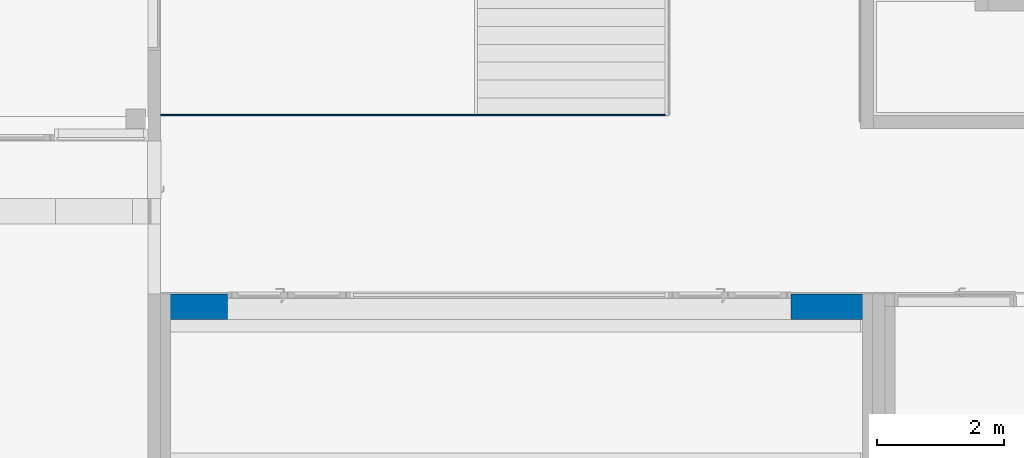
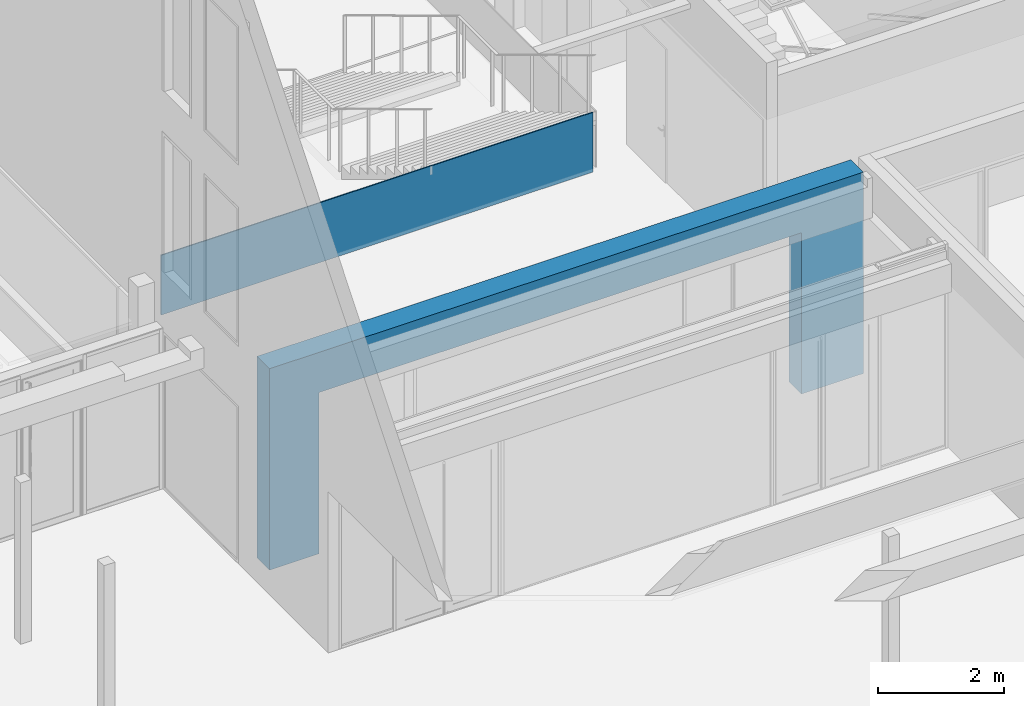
# One storey, part 145 of 240: 2 walls, 3 openings.
"""IFC2X3 building model written with IfcOpenShell, lengths in centimetres."""

from ifc_helpers import new_model, entity, si_unit, converted_unit, derived_unit, direction, frame, frame_2d, origin, place, context, subcontext, project, spatial, polyline, rectangle, extrude, clip, bounded_halfspace, material, layer, layer_set, layer_usage, type_object, element, save


model = new_model("IFC2X3")

# Units and contexts
model_context = context("Model", 3, precision=0.001, world=origin(), true_north=direction((6.12303176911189e-17, 1.0)))
body_context = subcontext(model_context, "Body", "Model", "MODEL_VIEW")
ifc_project = project(units=[si_unit("LENGTHUNIT", "METRE", prefix="CENTI"), si_unit("AREAUNIT", "SQUARE_METRE"), si_unit("VOLUMEUNIT", "CUBIC_METRE"), converted_unit("PLANEANGLEUNIT", "DEGREE", entity("IfcRatioMeasure", 0.0174532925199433), si_unit("PLANEANGLEUNIT", "RADIAN"), dimensions=[0, 0, 0, 0, 0, 0, 0]), si_unit("MASSUNIT", "GRAM", prefix="KILO"), derived_unit("MASSDENSITYUNIT", [(si_unit("MASSUNIT", "GRAM", prefix="KILO"), 1), (si_unit("LENGTHUNIT", "METRE"), -3)]), si_unit("TIMEUNIT", "SECOND"), si_unit("FREQUENCYUNIT", "HERTZ"), si_unit("THERMODYNAMICTEMPERATUREUNIT", "DEGREE_CELSIUS"), derived_unit("THERMALTRANSMITTANCEUNIT", [(si_unit("MASSUNIT", "GRAM", prefix="KILO"), 1), (si_unit("THERMODYNAMICTEMPERATUREUNIT", "KELVIN"), -1), (si_unit("TIMEUNIT", "SECOND"), -3)]), derived_unit("VOLUMETRICFLOWRATEUNIT", [(si_unit("LENGTHUNIT", "METRE"), 3), (si_unit("TIMEUNIT", "SECOND"), -1)]), si_unit("ELECTRICCURRENTUNIT", "AMPERE"), si_unit("ELECTRICVOLTAGEUNIT", "VOLT"), si_unit("POWERUNIT", "WATT"), si_unit("FORCEUNIT", "NEWTON", prefix="KILO"), si_unit("ILLUMINANCEUNIT", "LUX"), si_unit("LUMINOUSFLUXUNIT", "LUMEN"), si_unit("LUMINOUSINTENSITYUNIT", "CANDELA"), derived_unit("USERDEFINED", [(si_unit("MASSUNIT", "GRAM", prefix="KILO"), -1), (si_unit("LENGTHUNIT", "METRE"), -2), (si_unit("TIMEUNIT", "SECOND"), 3), (si_unit("LUMINOUSFLUXUNIT", "LUMEN"), 1)]), derived_unit("LINEARVELOCITYUNIT", [(si_unit("LENGTHUNIT", "METRE"), 1), (si_unit("TIMEUNIT", "SECOND"), -1)]), si_unit("PRESSUREUNIT", "PASCAL"), derived_unit("USERDEFINED", [(si_unit("LENGTHUNIT", "METRE"), -2), (si_unit("MASSUNIT", "GRAM", prefix="KILO"), 1), (si_unit("TIMEUNIT", "SECOND"), -2)])], contexts=[model_context])

# Site, building, storey
site_placement = place(None, frame((-2781.94577612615, 7442.24238424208, 0.0)))
site = spatial("IfcSite", under=ifc_project, at=site_placement, Name="Default", CompositionType="ELEMENT")
building_placement = place(site_placement, origin())
building = spatial("IfcBuilding", under=site, at=building_placement, CompositionType="ELEMENT")
storey_placement = place(building_placement, origin())
storey = spatial("IfcBuildingStorey", under=building, at=storey_placement, Name="N00 - COO", CompositionType="ELEMENT", Elevation=0.0)

# Wall, openings
ifc_material_1 = material(Name="01 - Maçonnerie")
ifc_layer_1 = layer(ifc_material_1, 40.0)
ifc_layer_set_1 = layer_set([ifc_layer_1], Name="Mur de base:04 - Structure - Béton - 40")
ifc_layer_usage_1 = layer_usage(ifc_layer_set_1, "AXIS2", "NEGATIVE", 20.0)
wall_type_1 = type_object("IfcWallType", Name="Mur de base:04 - Structure - Béton - 40", PredefinedType="STANDARD", material=ifc_layer_set_1)
wall_1_placement = place(building_placement, frame((-4753.99987760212, -2210.15656731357, 0.0)))
wall_1 = element("IfcWallStandardCase", 1, at=wall_1_placement, inside=storey, type_object=wall_type_1, material=ifc_layer_usage_1, Name="Mur de base:04 - Structure - Béton - 40", ObjectType="Mur de base:04 - Structure - Béton - 40", context=body_context, shape_type="Clipping", body=[
    clip(extrude(rectangle(XDim=1090.49999791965, YDim=39.9999999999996, at=frame_2d((545.249998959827, 0.0), x_axis=(-1.0, 0.0))), origin(), (0.0, 0.0, 1.0), 391.0), bounded_halfspace(frame((0.0, -20.0, 391.0), z_axis=(0.0, 0.0, -1.0), x_axis=(0.0, 1.0, 0.0)), True, frame((0.0, -20.0, 391.0)), polyline([(0.0, 0.0), (1090.49999791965, 0.0), (1090.49999791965, 40.0), (0.0, 40.0), (0.0, 0.0)]))),
])
opening_1_placement = place(wall_1_placement, origin())
element("IfcOpeningElement", 2, at=opening_1_placement, cuts=wall_1, Name="Mur de base:04 - Structure - Béton - 40", ObjectType="Opening", context=body_context, shape_type="SweptSolid", body=[
    extrude(rectangle(XDim=313.0, YDim=885.49409053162, at=frame_2d((0.0, 2.27373675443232e-13), x_axis=(1.0, 0.0))), frame((533.989997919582, -35.2400000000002, 156.5), z_axis=(0.0, 1.0, 0.0), x_axis=(0.0, 0.0, 1.0)), (0.0, 0.0, 1.0), 70.48),
])
opening_2_placement = place(wall_1_placement, origin())
element("IfcOpeningElement", 3, at=opening_2_placement, cuts=wall_1, Name="Mur de base:04 - Structure - Béton - 40", ObjectType="Opening", context=body_context, shape_type="SweptSolid", body=[
    extrude(rectangle(XDim=321.0, YDim=192.75704526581, at=frame_2d((0.0, -2.1316282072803e-13), x_axis=(1.0, 0.0))), frame((880.378520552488, 12.3399855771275, 145.5), z_axis=(0.0, 1.0, 0.0), x_axis=(0.0, 0.0, -1.0)), (0.0, 0.0, 1.0), 61.1877456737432),
])
opening_3_placement = place(wall_1_placement, origin())
element("IfcOpeningElement", 4, at=opening_3_placement, cuts=wall_1, Name="Mur de base:04 - Structure - Béton - 40", ObjectType="Opening", context=body_context, shape_type="SweptSolid", body=[
    extrude(rectangle(XDim=321.0, YDim=192.75704526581, at=frame_2d((0.0, -4.33431068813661e-13), x_axis=(1.0, 0.0))), frame((187.621475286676, 12.339985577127, 145.5), z_axis=(0.0, 1.0, 0.0), x_axis=(0.0, 0.0, -1.0)), (0.0, 0.0, 1.0), 61.1877456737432),
])

# Wall
ifc_material_2 = material(Name="01 - Enduit/Plâtre")
ifc_layer_2 = layer(ifc_material_2, 1.3)
ifc_material_3 = material(Name="00 - VIDE D'AIR")
ifc_layer_3 = layer(ifc_material_3, 0.7)
ifc_layer_set_2 = layer_set([ifc_layer_2, ifc_layer_3], Name="Mur de base:06 - habillage Ba13 collée 2cm")
ifc_layer_usage_2 = layer_usage(ifc_layer_set_2, "AXIS2", "NEGATIVE", 1.0)
wall_type_2 = type_object("IfcWallType", Name="Mur de base:06 - habillage Ba13 collée 2cm", PredefinedType="STANDARD", material=ifc_layer_set_2)
wall_2_placement = place(building_placement, frame((-4767.99987760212, -1909.07903364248, 306.0)))
element("IfcWallStandardCase", 5, at=wall_2_placement, inside=storey, type_object=wall_type_2, material=ifc_layer_usage_2, Name="Mur de base:06 - habillage Ba13 collée 2cm", ObjectType="Mur de base:06 - habillage Ba13 collée 2cm", context=body_context, shape_type="SweptSolid", body=[
    extrude(rectangle(XDim=792.919997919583, YDim=1.99999999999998, at=frame_2d((396.459998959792, -6.77236045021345e-15), x_axis=(-1.0, 0.0))), origin(), (0.0, 0.0, 1.0), 116.0),
])

save(model, "model.ifc")
